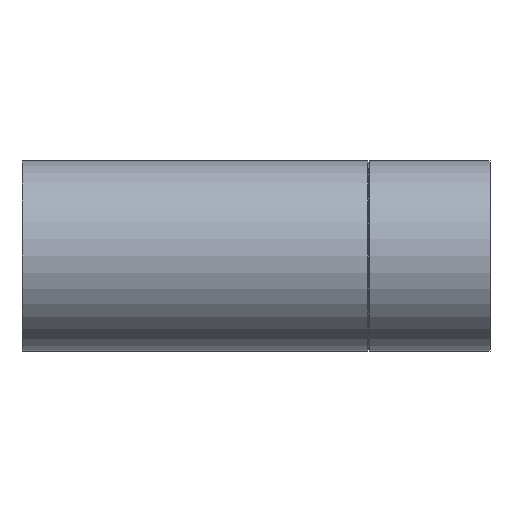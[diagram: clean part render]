
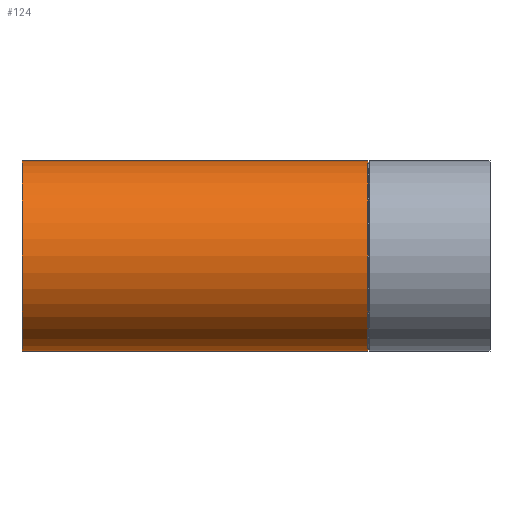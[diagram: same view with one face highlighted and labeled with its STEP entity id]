
A CAD part, left-side view. The second image highlights one B-rep face of the part: STEP entity #124.
In plain terms, the highlighted cylindrical face has radius 55 mm (diameter 110 mm), a full revolution.
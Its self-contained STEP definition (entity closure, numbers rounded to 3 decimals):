
#16=B_SPLINE_CURVE_WITH_KNOTS($,3,(#205,#206,#207,#208,#209,#210,#211,#212,
#213,#214,#215,#216,#217,#218,#219,#220,#221,#222,#223,#224,#225,#226,#227,
#228,#229,#230,#231,#232,#233,#234,#235,#236,#237,#238,#239,#240,#241,#242,
#243,#244,#245,#246,#247,#248,#249,#250,#251,#252,#253,#254,#255,#256,#257,
#258,#259,#260,#261,#262,#263,#264,#265,#266),.UNSPECIFIED.,.T.,.F.,(4,
2,2,2,2,2,2,2,2,2,2,2,2,2,2,2,2,2,2,2,2,2,2,2,2,2,2,2,2,2,4),(0.,0.797,
1.595,3.19,3.957,4.725,5.213,
5.458,5.702,6.253,6.805,7.907,
9.701,10.598,11.495,12.149,12.804,
13.458,14.112,14.682,15.251,15.698,
16.144,16.591,17.037,17.607,18.176,
18.83,19.485,20.139,20.793),
 .UNSPECIFIED.);
#18=CYLINDRICAL_SURFACE($,#140,55.);
#25=FACE_BOUND($,#49,.T.);
#26=FACE_BOUND($,#50,.T.);
#27=FACE_BOUND($,#51,.T.);
#49=EDGE_LOOP($,(#102));
#50=EDGE_LOOP($,(#103));
#51=EDGE_LOOP($,(#104));
#69=CIRCLE($,#139,55.);
#70=CIRCLE($,#141,55.);
#78=VERTEX_POINT($,#201);
#79=VERTEX_POINT($,#204);
#80=VERTEX_POINT($,#267);
#89=EDGE_CURVE($,#78,#78,#69,.T.);
#90=EDGE_CURVE($,#79,#79,#16,.T.);
#91=EDGE_CURVE($,#80,#80,#70,.T.);
#102=ORIENTED_EDGE($,*,*,#90,.T.);
#103=ORIENTED_EDGE($,*,*,#91,.T.);
#104=ORIENTED_EDGE($,*,*,#89,.T.);
#124=ADVANCED_FACE($,(#25,#26,#27),#18,.T.);
#139=AXIS2_PLACEMENT_3D($,#202,#164,#165);
#140=AXIS2_PLACEMENT_3D($,#203,#166,#167);
#141=AXIS2_PLACEMENT_3D($,#268,#168,#169);
#164=DIRECTION('center_axis',(0.,1.,0.));
#165=DIRECTION('ref_axis',(1.,0.,0.));
#166=DIRECTION('center_axis',(0.,1.,0.));
#167=DIRECTION('ref_axis',(1.,0.,0.));
#168=DIRECTION('center_axis',(0.,-1.,0.));
#169=DIRECTION('ref_axis',(1.,0.,0.));
#201=CARTESIAN_POINT('',(55.,70.635,0.));
#202=CARTESIAN_POINT('Origin',(0.,70.635,0.));
#203=CARTESIAN_POINT('Origin',(0.,0.,0.));
#204=CARTESIAN_POINT('',(47.339,137.339,28.));
#205=CARTESIAN_POINT('Ctrl Pts',(47.339,137.339,28.));
#206=CARTESIAN_POINT('Ctrl Pts',(47.339,139.997,28.));
#207=CARTESIAN_POINT('Ctrl Pts',(47.453,142.756,27.81));
#208=CARTESIAN_POINT('Ctrl Pts',(47.878,148.324,27.072));
#209=CARTESIAN_POINT('Ctrl Pts',(48.188,151.134,26.525));
#210=CARTESIAN_POINT('Ctrl Pts',(49.317,159.416,24.401));
#211=CARTESIAN_POINT('Ctrl Pts',(50.334,164.745,22.337));
#212=CARTESIAN_POINT('Ctrl Pts',(51.784,171.511,18.578));
#213=CARTESIAN_POINT('Ctrl Pts',(52.312,173.828,17.078));
#214=CARTESIAN_POINT('Ctrl Pts',(53.32,178.05,13.609));
#215=CARTESIAN_POINT('Ctrl Pts',(53.797,179.951,11.635));
#216=CARTESIAN_POINT('Ctrl Pts',(54.398,182.303,8.223));
#217=CARTESIAN_POINT('Ctrl Pts',(54.619,183.151,6.667));
#218=CARTESIAN_POINT('Ctrl Pts',(54.846,184.015,4.195));
#219=CARTESIAN_POINT('Ctrl Pts',(54.904,184.237,3.348));
#220=CARTESIAN_POINT('Ctrl Pts',(54.982,184.528,1.658));
#221=CARTESIAN_POINT('Ctrl Pts',(55.,184.598,0.814));
#222=CARTESIAN_POINT('Ctrl Pts',(55.,184.598,-1.838));
#223=CARTESIAN_POINT('Ctrl Pts',(54.907,184.248,-3.627));
#224=CARTESIAN_POINT('Ctrl Pts',(54.575,182.981,-7.035));
#225=CARTESIAN_POINT('Ctrl Pts',(54.337,182.065,-8.654));
#226=CARTESIAN_POINT('Ctrl Pts',(53.487,178.728,-13.172));
#227=CARTESIAN_POINT('Ctrl Pts',(52.745,175.706,-15.732));
#228=CARTESIAN_POINT('Ctrl Pts',(50.95,167.814,-20.998));
#229=CARTESIAN_POINT('Ctrl Pts',(49.748,161.959,-23.537));
#230=CARTESIAN_POINT('Ctrl Pts',(48.387,152.775,-26.166));
#231=CARTESIAN_POINT('Ctrl Pts',(48.008,149.646,-26.843));
#232=CARTESIAN_POINT('Ctrl Pts',(47.483,143.423,-27.76));
#233=CARTESIAN_POINT('Ctrl Pts',(47.339,140.329,-28.));
#234=CARTESIAN_POINT('Ctrl Pts',(47.339,135.158,-28.));
#235=CARTESIAN_POINT('Ctrl Pts',(47.416,132.883,-27.871));
#236=CARTESIAN_POINT('Ctrl Pts',(47.775,128.346,-27.251));
#237=CARTESIAN_POINT('Ctrl Pts',(48.058,126.086,-26.759));
#238=CARTESIAN_POINT('Ctrl Pts',(48.818,121.773,-25.347));
#239=CARTESIAN_POINT('Ctrl Pts',(49.296,119.716,-24.424));
#240=CARTESIAN_POINT('Ctrl Pts',(50.357,115.965,-22.152));
#241=CARTESIAN_POINT('Ctrl Pts',(50.94,114.271,-20.802));
#242=CARTESIAN_POINT('Ctrl Pts',(51.999,111.529,-17.974));
#243=CARTESIAN_POINT('Ctrl Pts',(52.532,110.297,-16.387));
#244=CARTESIAN_POINT('Ctrl Pts',(53.487,108.251,-12.934));
#245=CARTESIAN_POINT('Ctrl Pts',(53.905,107.434,-11.069));
#246=CARTESIAN_POINT('Ctrl Pts',(54.449,106.399,-7.891));
#247=CARTESIAN_POINT('Ctrl Pts',(54.66,106.014,-6.318));
#248=CARTESIAN_POINT('Ctrl Pts',(54.935,105.516,-3.116));
#249=CARTESIAN_POINT('Ctrl Pts',(55.,105.402,-1.488));
#250=CARTESIAN_POINT('Ctrl Pts',(55.,105.402,1.488));
#251=CARTESIAN_POINT('Ctrl Pts',(54.935,105.516,3.116));
#252=CARTESIAN_POINT('Ctrl Pts',(54.66,106.014,6.318));
#253=CARTESIAN_POINT('Ctrl Pts',(54.449,106.399,7.891));
#254=CARTESIAN_POINT('Ctrl Pts',(53.905,107.434,11.069));
#255=CARTESIAN_POINT('Ctrl Pts',(53.487,108.251,12.934));
#256=CARTESIAN_POINT('Ctrl Pts',(52.532,110.297,16.387));
#257=CARTESIAN_POINT('Ctrl Pts',(51.999,111.529,17.974));
#258=CARTESIAN_POINT('Ctrl Pts',(50.94,114.271,20.802));
#259=CARTESIAN_POINT('Ctrl Pts',(50.357,115.965,22.152));
#260=CARTESIAN_POINT('Ctrl Pts',(49.296,119.716,24.424));
#261=CARTESIAN_POINT('Ctrl Pts',(48.818,121.773,25.347));
#262=CARTESIAN_POINT('Ctrl Pts',(48.058,126.086,26.759));
#263=CARTESIAN_POINT('Ctrl Pts',(47.775,128.346,27.251));
#264=CARTESIAN_POINT('Ctrl Pts',(47.416,132.883,27.871));
#265=CARTESIAN_POINT('Ctrl Pts',(47.339,135.158,28.));
#266=CARTESIAN_POINT('Ctrl Pts',(47.339,137.339,28.));
#267=CARTESIAN_POINT('',(-55.,270.,0.));
#268=CARTESIAN_POINT('Origin',(0.,270.,0.));
